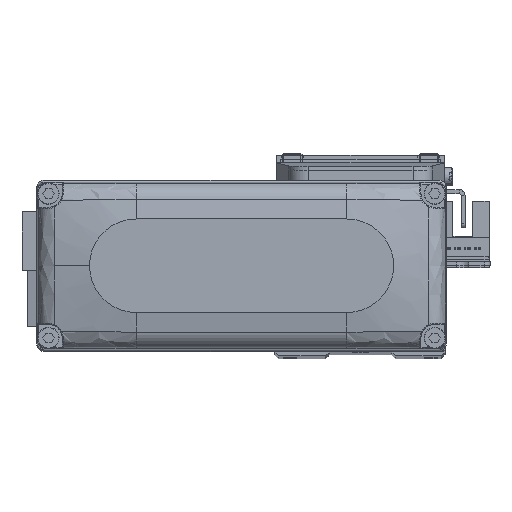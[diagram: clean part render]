
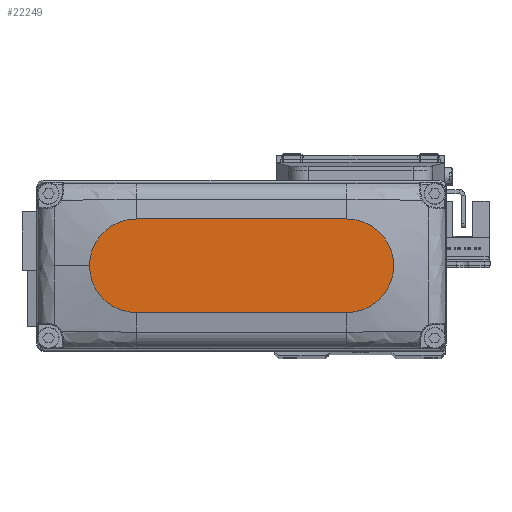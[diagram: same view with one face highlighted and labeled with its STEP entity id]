
A CAD part, top view. The second image highlights one B-rep face of the part: STEP entity #22249.
In plain terms, the highlighted planar face has unit normal (0, 0, 1).
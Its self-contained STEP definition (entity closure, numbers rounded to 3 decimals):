
#238 = AXIS2_PLACEMENT_3D ( 'NONE', #19833, #32038, #4634 ) ;
#961 = DIRECTION ( 'NONE',  ( 1., 0., 0. ) ) ;
#962 = VECTOR ( 'NONE', #1707, 1000. ) ;
#1219 = CARTESIAN_POINT ( 'NONE',  ( 27., 12., 25. ) ) ;
#1544 = AXIS2_PLACEMENT_3D ( 'NONE', #18346, #30550, #3134 ) ;
#1707 = DIRECTION ( 'NONE',  ( 1., 0., 0. ) ) ;
#2762 = CIRCLE ( 'NONE', #25119, 12. ) ;
#3007 = CARTESIAN_POINT ( 'NONE',  ( -27., 12., 25. ) ) ;
#3056 = ORIENTED_EDGE ( 'NONE', *, *, #19596, .T. ) ;
#3134 = DIRECTION ( 'NONE',  ( 1., 0., 0. ) ) ;
#4634 = DIRECTION ( 'NONE',  ( 1., 0., 0. ) ) ;
#6154 = PLANE ( 'NONE',  #1544 ) ;
#6390 = CARTESIAN_POINT ( 'NONE',  ( -27., 12., 25. ) ) ;
#8920 = EDGE_CURVE ( 'NONE', #34622, #28545, #35231, .T. ) ;
#10753 = CARTESIAN_POINT ( 'NONE',  ( 39., 0., 25. ) ) ;
#11996 = VERTEX_POINT ( 'NONE', #1219 ) ;
#14130 = CARTESIAN_POINT ( 'NONE',  ( 27., 0., 25. ) ) ;
#16154 = CARTESIAN_POINT ( 'NONE',  ( -27., 0., 25. ) ) ;
#16909 = LINE ( 'NONE', #29120, #962 ) ;
#17480 = CIRCLE ( 'NONE', #238, 12. ) ;
#17661 = ORIENTED_EDGE ( 'NONE', *, *, #8920, .T. ) ;
#17993 = AXIS2_PLACEMENT_3D ( 'NONE', #16154, #28367, #961 ) ;
#18346 = CARTESIAN_POINT ( 'NONE',  ( 0., 0., 25. ) ) ;
#18545 = VERTEX_POINT ( 'NONE', #10753 ) ;
#18590 = DIRECTION ( 'NONE',  ( -1., 0., 0. ) ) ;
#18637 = EDGE_LOOP ( 'NONE', ( #36231, #17661, #31717, #3056, #35795 ) ) ;
#19596 = EDGE_CURVE ( 'NONE', #20011, #18545, #2762, .T. ) ;
#19833 = CARTESIAN_POINT ( 'NONE',  ( 27., 0., 25. ) ) ;
#20011 = VERTEX_POINT ( 'NONE', #39036 ) ;
#21664 = EDGE_CURVE ( 'NONE', #18545, #11996, #17480, .T. ) ;
#22249 = ADVANCED_FACE ( 'NONE', ( #33556 ), #6154, .T. ) ;
#24802 = EDGE_CURVE ( 'NONE', #11996, #34622, #33800, .T. ) ;
#25119 = AXIS2_PLACEMENT_3D ( 'NONE', #14130, #26350, #38545 ) ;
#26350 = DIRECTION ( 'NONE',  ( 0., 0., 1. ) ) ;
#28367 = DIRECTION ( 'NONE',  ( 0., 0., 1. ) ) ;
#28545 = VERTEX_POINT ( 'NONE', #39422 ) ;
#29120 = CARTESIAN_POINT ( 'NONE',  ( -27., -12., 25. ) ) ;
#30550 = DIRECTION ( 'NONE',  ( 0., 0., 1. ) ) ;
#31717 = ORIENTED_EDGE ( 'NONE', *, *, #33523, .T. ) ;
#32038 = DIRECTION ( 'NONE',  ( 0., 0., 1. ) ) ;
#33523 = EDGE_CURVE ( 'NONE', #28545, #20011, #16909, .T. ) ;
#33556 = FACE_OUTER_BOUND ( 'NONE', #18637, .T. ) ;
#33800 = LINE ( 'NONE', #6390, #39412 ) ;
#34622 = VERTEX_POINT ( 'NONE', #3007 ) ;
#35231 = CIRCLE ( 'NONE', #17993, 12. ) ;
#35795 = ORIENTED_EDGE ( 'NONE', *, *, #21664, .T. ) ;
#36231 = ORIENTED_EDGE ( 'NONE', *, *, #24802, .T. ) ;
#38545 = DIRECTION ( 'NONE',  ( 1., 0., 0. ) ) ;
#39036 = CARTESIAN_POINT ( 'NONE',  ( 27., -12., 25. ) ) ;
#39412 = VECTOR ( 'NONE', #18590, 1000. ) ;
#39422 = CARTESIAN_POINT ( 'NONE',  ( -27., -12., 25. ) ) ;
